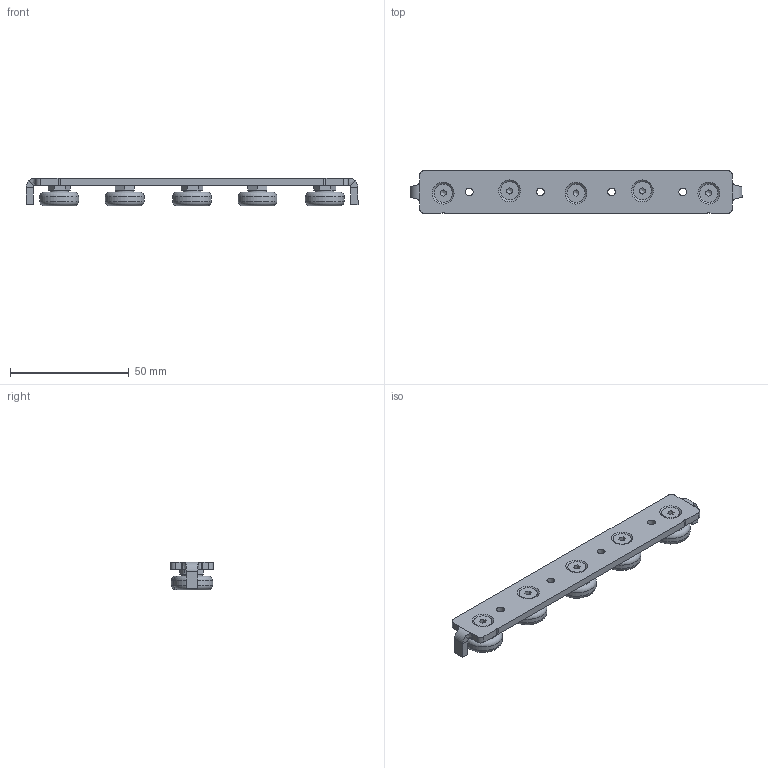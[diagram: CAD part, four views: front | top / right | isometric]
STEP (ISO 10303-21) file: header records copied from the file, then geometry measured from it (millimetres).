
FILE_DESCRIPTION (( 'STEP AP214' ), '1' );
FILE_NAME ('RLS22-5.STEP', '2022-02-01T12:42:43', ( '' ), ( '' ), 'SwSTEP 2.0', 'SolidWorks 2019', '' );
FILE_SCHEMA (( 'AUTOMOTIVE_DESIGN' ));
Length unit declared in the file: millimetre
Products named in the file (5): 40945; DIN 7991 - M4 x 8 (V2A)_DIN 7991 - M4 x 8 --- 5.6C_V2A; 42735; RLS22-5; 29287_01
Assembly tree (11 placements, depth 2):
  RLS22-5
    29287_01
    40945  x3
    42735  x2
    DIN 7991 - M4 x 8 (V2A)_DIN 7991 - M4 x 8 --- 5.6C_V2A  x5
Bounding box: 140 x 18 x 11.65 mm (x, y, z)
Volume: 13584.5 mm3; surface area: 11027.6 mm2
Topology: 11 solids, 11 shells, 241 faces, 531 edges, 322 vertices
Faces by surface type: plane 144, cylinder 48, cone 30, torus 15, bspline 4
Full cylindrical faces by diameter (mm): 3.3 x9, 4 x5, 4.5 x5, 7.5 x5, 7.64 x5, 16.4 x5
Entity records: 3631 total; most frequent: CARTESIAN_POINT 764, DIRECTION 526, ORIENTED_EDGE 438, EDGE_CURVE 219, AXIS2_PLACEMENT_3D 203, EDGE_LOOP 170, VERTEX_POINT 155, FACE_OUTER_BOUND 132
